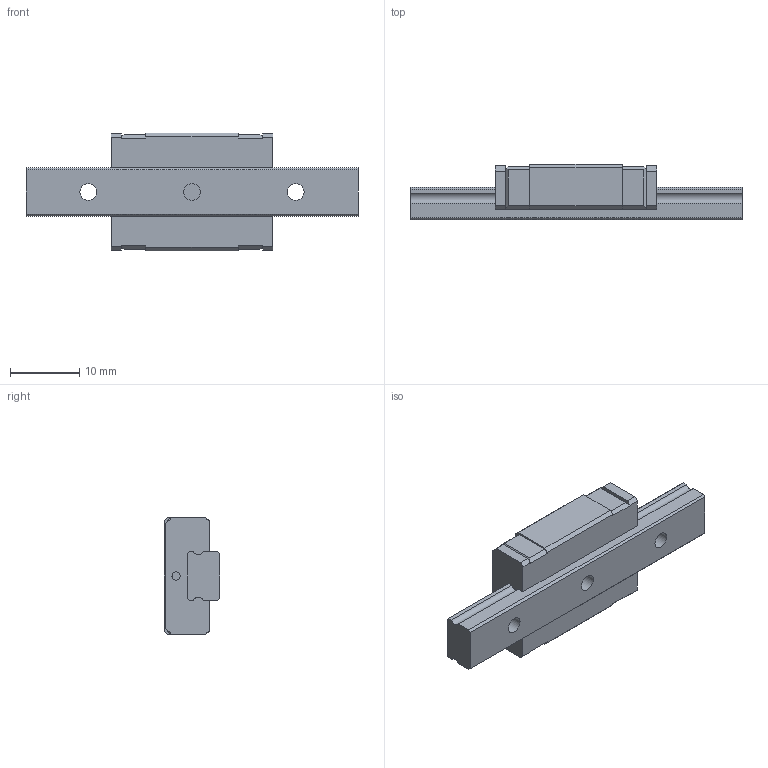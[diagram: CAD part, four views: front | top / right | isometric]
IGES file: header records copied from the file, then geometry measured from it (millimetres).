
Start section: Data from Parasolid IGES Translator 26.0.171, Copyright(c) 2006 Siemens PLM Software. All Rights Reserved.
Global section: file name: RSX7MUU-48LM_G9_0_Without grease nipple_12-3_0_0_0_1.igs; native system: By Siemens PLM Incorporated; preprocessor: XPlus GENERIC/IGES 26.0.171; author: Noname; organization: Noname; date: 20240521.102512; units: millimetre
Bounding box: 48 x 8 x 17 mm (x, y, z)
Surface area: 2822.6 mm2 (no closed solid volume)
Topology: 0 solids, 0 shells, 99 faces, 544 edges, 524 vertices
Faces by surface type: extrusion 73, revolution 26
